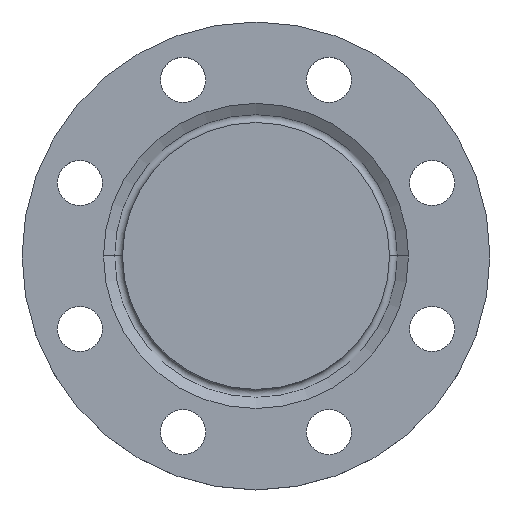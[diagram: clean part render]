
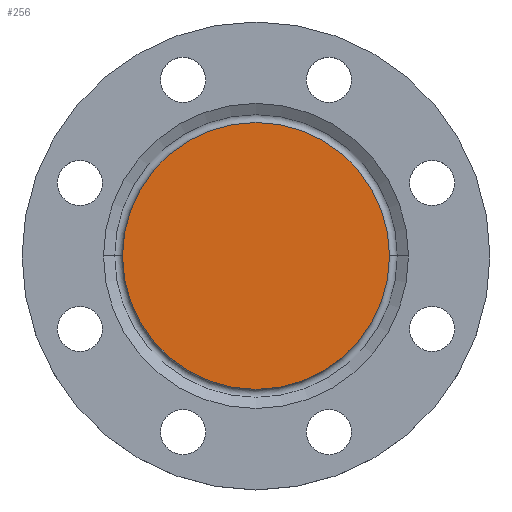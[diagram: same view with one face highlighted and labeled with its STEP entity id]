
A CAD part, top view. The second image highlights one B-rep face of the part: STEP entity #256.
In plain terms, the highlighted planar face has unit normal (0, 0, 1).
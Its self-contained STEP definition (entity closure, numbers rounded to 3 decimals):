
#31 = VERTEX_POINT ( 'NONE', #484 ) ;
#45 = EDGE_CURVE ( 'NONE', #31, #520, #471, .T. ) ;
#89 = DIRECTION ( 'NONE',  ( 1., 0., 0. ) ) ;
#160 = PLANE ( 'NONE',  #365 ) ;
#216 = DIRECTION ( 'NONE',  ( -1., 0., 0. ) ) ;
#256 = ADVANCED_FACE ( 'NONE', ( #792 ), #160, .T. ) ;
#270 = CARTESIAN_POINT ( 'NONE',  ( 0., 0., 0. ) ) ;
#365 = AXIS2_PLACEMENT_3D ( 'NONE', #433, #725, #89 ) ;
#433 = CARTESIAN_POINT ( 'NONE',  ( 0., 0., 0. ) ) ;
#471 = CIRCLE ( 'NONE', #591, 77. ) ;
#484 = CARTESIAN_POINT ( 'NONE',  ( 77., 0., 0. ) ) ;
#500 = AXIS2_PLACEMENT_3D ( 'NONE', #270, #540, #835 ) ;
#520 = VERTEX_POINT ( 'NONE', #693 ) ;
#540 = DIRECTION ( 'NONE',  ( 0., 0., -1. ) ) ;
#557 = CARTESIAN_POINT ( 'NONE',  ( 0., 0., 0. ) ) ;
#581 = ORIENTED_EDGE ( 'NONE', *, *, #685, .F. ) ;
#591 = AXIS2_PLACEMENT_3D ( 'NONE', #557, #853, #216 ) ;
#658 = ORIENTED_EDGE ( 'NONE', *, *, #45, .F. ) ;
#659 = EDGE_LOOP ( 'NONE', ( #581, #658 ) ) ;
#685 = EDGE_CURVE ( 'NONE', #520, #31, #908, .T. ) ;
#693 = CARTESIAN_POINT ( 'NONE',  ( -77., 0., 0. ) ) ;
#725 = DIRECTION ( 'NONE',  ( 0., 0., 1. ) ) ;
#792 = FACE_OUTER_BOUND ( 'NONE', #659, .T. ) ;
#835 = DIRECTION ( 'NONE',  ( -1., 0., 0. ) ) ;
#853 = DIRECTION ( 'NONE',  ( 0., 0., -1. ) ) ;
#908 = CIRCLE ( 'NONE', #500, 77. ) ;
